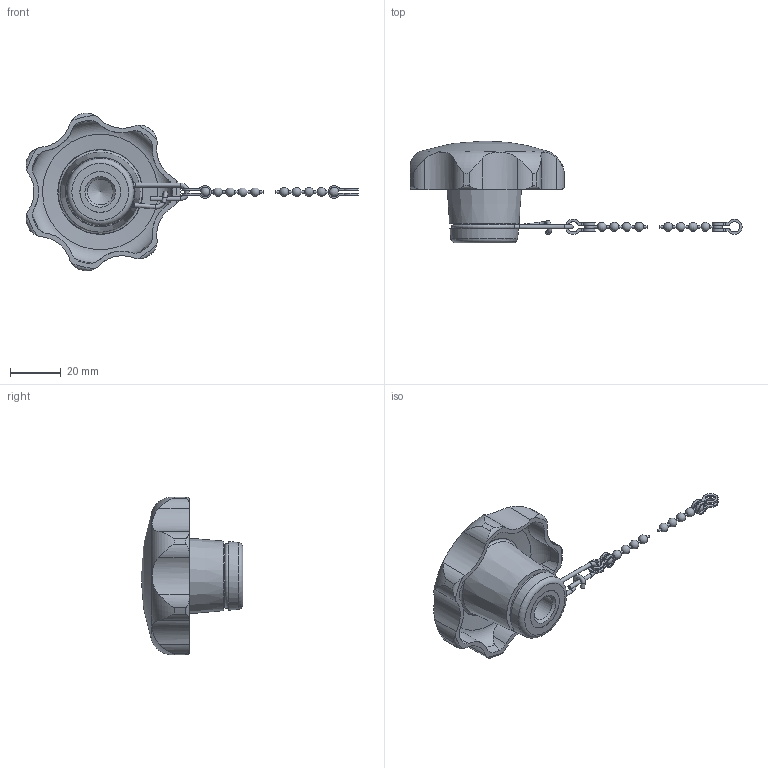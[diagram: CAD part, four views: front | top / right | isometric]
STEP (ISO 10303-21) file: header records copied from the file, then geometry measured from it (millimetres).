
FILE_DESCRIPTION( ( 'STEP AP203' ), '1' );
FILE_NAME( 'C:/Temp/Ganter_Step_05_03_2020/data/2_2/gn_6336_13/gn_6336_13_1/Star knob GN 6336.13-63-M12-K.stp', '2020-03-05T12:10:58', ( 'License CC BY-ND 4.0' ), ( 'CADENAS' ), ' ', 'PARTsolutions', ' ' );
FILE_SCHEMA( ( 'CONFIG_CONTROL_DESIGN' ) );
Length unit declared in the file: millimetre
Products named in the file (3): Star knob GN 6336.13-63-M12-K; _Star knob GN 6336.13-63-M12-K 2; _Star knob GN 111.5-200-14 k1
Assembly tree (2 placements, depth 2):
  Star knob GN 6336.13-63-M12-K
    _Star knob GN 6336.13-63-M12-K 2
    _Star knob GN 111.5-200-14 k1
Bounding box: 130.39 x 40 x 61.94 mm (x, y, z)
Volume: 39282.3 mm3; surface area: 14276.9 mm2
Topology: 2 solids, 2 shells, 174 faces, 493 edges, 318 vertices
Faces by surface type: cylinder 103, plane 30, torus 18, cone 12, sphere 11
Full cylindrical faces by diameter (mm): 0.9 x10, 1.6 x6, 10.106 x1, 15.99 x1, 16.05 x1, 22.3 x1
Entity records: 6430 total; most frequent: CARTESIAN_POINT 2084, DIRECTION 904, ORIENTED_EDGE 848, EDGE_CURVE 424, AXIS2_PLACEMENT_3D 389, VERTEX_POINT 305, EDGE_LOOP 229, FACE_OUTER_BOUND 212
